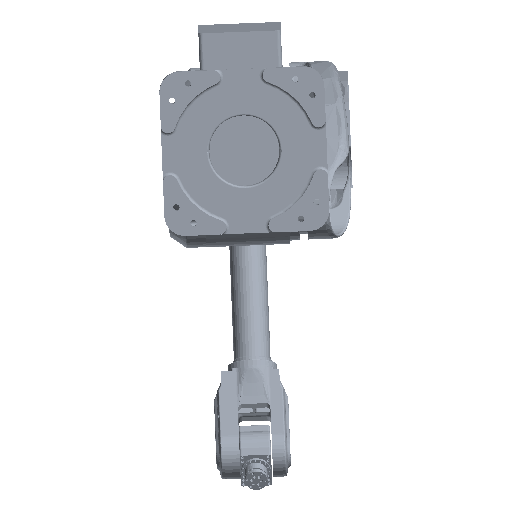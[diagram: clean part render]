
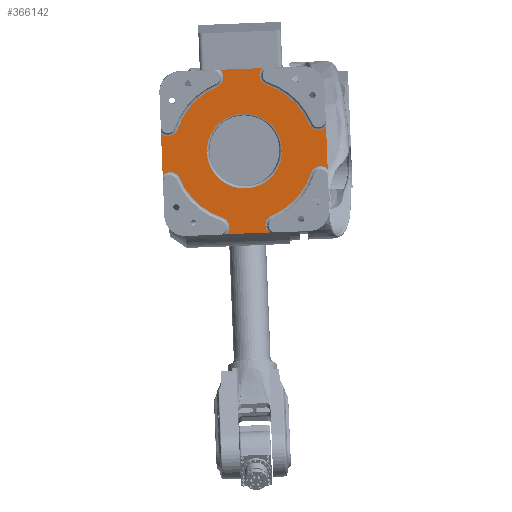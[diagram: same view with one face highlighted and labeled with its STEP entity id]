
A CAD part, left-side view. The second image highlights one B-rep face of the part: STEP entity #366142.
In plain terms, the highlighted planar face has unit normal (-0.996, -0.004, -0.088) as drawn and (-1, 0, 0) by its records, which use the part's own axes.
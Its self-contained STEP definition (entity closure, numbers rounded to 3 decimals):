
#357407=CARTESIAN_POINT('',(0.,0.,0.));
#357408=DIRECTION('',(-1.,0.,0.));
#357409=DIRECTION('',(0.,-0.936,0.352));
#357410=AXIS2_PLACEMENT_3D('',#357407,#357408,#357409);
#357412=CARTESIAN_POINT('',(0.,-182.5,68.693));
#357413=DIRECTION('',(1.,0.,0.));
#357414=DIRECTION('',(0.,-0.702,-0.712));
#357415=AXIS2_PLACEMENT_3D('',#357412,#357413,#357414);
#357417=DIRECTION('',(0.,0.,1.));
#357418=VECTOR('',#357417,101.914);
#357419=CARTESIAN_POINT('',(0.,-200.,-50.957));
#357420=LINE('',#357419,#357418);
#357421=CARTESIAN_POINT('',(0.,-182.5,-68.693));
#357422=DIRECTION('',(1.,0.,0.));
#357423=DIRECTION('',(0.,0.271,0.962));
#357424=AXIS2_PLACEMENT_3D('',#357421,#357422,#357423);
#357426=CARTESIAN_POINT('',(0.,-182.5,-68.693));
#357427=DIRECTION('',(1.,0.,0.));
#357428=DIRECTION('',(0.,0.936,0.352));
#357429=AXIS2_PLACEMENT_3D('',#357426,#357427,#357428);
#357431=CARTESIAN_POINT('',(0.,0.,0.));
#357432=DIRECTION('',(-1.,0.,0.));
#357433=DIRECTION('',(0.,-0.352,-0.936));
#357434=AXIS2_PLACEMENT_3D('',#357431,#357432,#357433);
#357436=CARTESIAN_POINT('',(0.,-68.693,-182.5));
#357437=DIRECTION('',(1.,0.,0.));
#357438=DIRECTION('',(0.,0.712,-0.702));
#357439=AXIS2_PLACEMENT_3D('',#357436,#357437,#357438);
#357441=DIRECTION('',(0.,-1.,0.));
#357442=VECTOR('',#357441,101.914);
#357443=CARTESIAN_POINT('',(0.,50.957,-200.));
#357444=LINE('',#357443,#357442);
#357445=CARTESIAN_POINT('',(0.,68.693,-182.5));
#357446=DIRECTION('',(1.,0.,0.));
#357447=DIRECTION('',(0.,-0.962,0.271));
#357448=AXIS2_PLACEMENT_3D('',#357445,#357446,#357447);
#357450=CARTESIAN_POINT('',(0.,68.693,-182.5));
#357451=DIRECTION('',(1.,0.,0.));
#357452=DIRECTION('',(0.,-0.352,0.936));
#357453=AXIS2_PLACEMENT_3D('',#357450,#357451,#357452);
#357455=CARTESIAN_POINT('',(0.,0.,0.));
#357456=DIRECTION('',(-1.,0.,0.));
#357457=DIRECTION('',(0.,0.936,-0.352));
#357458=AXIS2_PLACEMENT_3D('',#357455,#357456,#357457);
#357460=CARTESIAN_POINT('',(0.,182.5,-68.693));
#357461=DIRECTION('',(1.,0.,0.));
#357462=DIRECTION('',(0.,0.702,0.712));
#357463=AXIS2_PLACEMENT_3D('',#357460,#357461,#357462);
#357465=DIRECTION('',(0.,0.,-1.));
#357466=VECTOR('',#357465,101.914);
#357467=CARTESIAN_POINT('',(0.,200.,50.957));
#357468=LINE('',#357467,#357466);
#357469=CARTESIAN_POINT('',(0.,182.5,68.693));
#357470=DIRECTION('',(1.,0.,0.));
#357471=DIRECTION('',(0.,-0.271,-0.962));
#357472=AXIS2_PLACEMENT_3D('',#357469,#357470,#357471);
#357474=CARTESIAN_POINT('',(0.,182.5,68.693));
#357475=DIRECTION('',(1.,0.,0.));
#357476=DIRECTION('',(0.,-0.936,-0.352));
#357477=AXIS2_PLACEMENT_3D('',#357474,#357475,#357476);
#357479=CARTESIAN_POINT('',(0.,0.,0.));
#357480=DIRECTION('',(-1.,0.,0.));
#357481=DIRECTION('',(0.,0.352,0.936));
#357482=AXIS2_PLACEMENT_3D('',#357479,#357480,#357481);
#357484=CARTESIAN_POINT('',(0.,68.693,182.5));
#357485=DIRECTION('',(1.,0.,0.));
#357486=DIRECTION('',(0.,-0.712,0.702));
#357487=AXIS2_PLACEMENT_3D('',#357484,#357485,#357486);
#357489=DIRECTION('',(0.,1.,0.));
#357490=VECTOR('',#357489,101.914);
#357491=CARTESIAN_POINT('',(0.,-50.957,200.));
#357492=LINE('',#357491,#357490);
#357493=CARTESIAN_POINT('',(0.,-68.693,182.5));
#357494=DIRECTION('',(1.,0.,0.));
#357495=DIRECTION('',(0.,0.962,-0.271));
#357496=AXIS2_PLACEMENT_3D('',#357493,#357494,#357495);
#357498=CARTESIAN_POINT('',(0.,-68.693,182.5));
#357499=DIRECTION('',(1.,0.,0.));
#357500=DIRECTION('',(0.,0.352,-0.936));
#357501=AXIS2_PLACEMENT_3D('',#357498,#357499,#357500);
#357503=CARTESIAN_POINT('',(0.,0.,0.));
#357504=DIRECTION('',(1.,0.,0.));
#357505=DIRECTION('',(0.,1.,0.011));
#357506=AXIS2_PLACEMENT_3D('',#357503,#357504,#357505);
#357508=CARTESIAN_POINT('',(0.,0.,0.));
#357509=DIRECTION('',(1.,0.,0.));
#357510=DIRECTION('',(0.,1.,0.));
#357511=AXIS2_PLACEMENT_3D('',#357508,#357509,#357510);
#357513=CARTESIAN_POINT('',(0.,0.,0.));
#357514=DIRECTION('',(1.,0.,0.));
#357515=DIRECTION('',(0.,-1.,-0.011));
#357516=AXIS2_PLACEMENT_3D('',#357513,#357514,#357515);
#357518=CARTESIAN_POINT('',(0.,0.,0.));
#357519=DIRECTION('',(1.,0.,0.));
#357520=DIRECTION('',(0.,-1.,0.));
#357521=AXIS2_PLACEMENT_3D('',#357518,#357519,#357520);
#357623=CARTESIAN_POINT('',(0.,-50.957,-200.));
#358409=CARTESIAN_POINT('',(0.,50.957,-200.));
#359520=CARTESIAN_POINT('',(0.,-90.886,0.));
#359522=VERTEX_POINT('',#359520);
#359796=VERTEX_POINT('',#358409);
#359813=CARTESIAN_POINT('',(0.,50.957,200.));
#359814=CARTESIAN_POINT('',(0.,59.916,159.181));
#359815=VERTEX_POINT('',#359813);
#359816=VERTEX_POINT('',#359814);
#359959=CARTESIAN_POINT('',(0.,-59.916,159.181));
#359960=CARTESIAN_POINT('',(0.,-44.711,175.74));
#359961=VERTEX_POINT('',#359959);
#359962=VERTEX_POINT('',#359960);
#360015=CARTESIAN_POINT('',(0.,159.181,-59.916));
#360016=CARTESIAN_POINT('',(0.,59.916,-159.181));
#360017=VERTEX_POINT('',#360015);
#360018=VERTEX_POINT('',#360016);
#360053=CARTESIAN_POINT('',(0.,200.,50.957));
#360054=CARTESIAN_POINT('',(0.,200.,-50.957));
#360055=VERTEX_POINT('',#360053);
#360056=VERTEX_POINT('',#360054);
#360153=VERTEX_POINT('',#357623);
#360180=CARTESIAN_POINT('',(0.,-175.74,-44.711));
#360181=CARTESIAN_POINT('',(0.,-200.,-50.957));
#360182=VERTEX_POINT('',#360180);
#360183=VERTEX_POINT('',#360181);
#360192=CARTESIAN_POINT('',(0.,-159.181,-59.916));
#360193=VERTEX_POINT('',#360192);
#360253=CARTESIAN_POINT('',(0.,159.181,59.916));
#360254=CARTESIAN_POINT('',(0.,175.74,44.711));
#360255=VERTEX_POINT('',#360253);
#360256=VERTEX_POINT('',#360254);
#360298=CARTESIAN_POINT('',(0.,-90.88,-0.973));
#360299=VERTEX_POINT('',#360298);
#360300=CARTESIAN_POINT('',(0.,-200.,50.957));
#360301=VERTEX_POINT('',#360300);
#360312=CARTESIAN_POINT('',(0.,90.88,0.973));
#360313=VERTEX_POINT('',#360312);
#360350=CARTESIAN_POINT('',(0.,90.886,0.));
#360351=VERTEX_POINT('',#360350);
#360396=CARTESIAN_POINT('',(0.,-50.957,200.));
#360397=VERTEX_POINT('',#360396);
#360412=CARTESIAN_POINT('',(0.,-159.181,59.916));
#360413=VERTEX_POINT('',#360412);
#360430=CARTESIAN_POINT('',(0.,-59.916,-159.181));
#360431=VERTEX_POINT('',#360430);
#360512=CARTESIAN_POINT('',(0.,44.711,-175.74));
#360513=VERTEX_POINT('',#360512);
#366089=CARTESIAN_POINT('',(0.,0.,0.));
#366090=DIRECTION('',(1.,0.,0.));
#366091=DIRECTION('',(0.,1.,0.));
#366092=AXIS2_PLACEMENT_3D('',#366089,#366090,#366091);
#366093=PLANE('',#366092);
#366095=ORIENTED_EDGE('',*,*,#366094,.F.);
#366097=ORIENTED_EDGE('',*,*,#366096,.F.);
#366099=ORIENTED_EDGE('',*,*,#366098,.F.);
#366101=ORIENTED_EDGE('',*,*,#366100,.F.);
#366103=ORIENTED_EDGE('',*,*,#366102,.F.);
#366105=ORIENTED_EDGE('',*,*,#366104,.F.);
#366107=ORIENTED_EDGE('',*,*,#366106,.F.);
#366109=ORIENTED_EDGE('',*,*,#366108,.F.);
#366111=ORIENTED_EDGE('',*,*,#366110,.F.);
#366113=ORIENTED_EDGE('',*,*,#366112,.F.);
#366115=ORIENTED_EDGE('',*,*,#366114,.F.);
#366117=ORIENTED_EDGE('',*,*,#366116,.F.);
#366119=ORIENTED_EDGE('',*,*,#366118,.F.);
#366121=ORIENTED_EDGE('',*,*,#366120,.F.);
#366123=ORIENTED_EDGE('',*,*,#366122,.F.);
#366125=ORIENTED_EDGE('',*,*,#366124,.F.);
#366127=ORIENTED_EDGE('',*,*,#366126,.F.);
#366129=ORIENTED_EDGE('',*,*,#366128,.F.);
#366131=ORIENTED_EDGE('',*,*,#366130,.F.);
#366133=ORIENTED_EDGE('',*,*,#366132,.F.);
#366134=EDGE_LOOP('',(#366095,#366097,#366099,#366101,#366103,#366105,#366107,
#366109,#366111,#366113,#366115,#366117,#366119,#366121,#366123,#366125,#366127,
#366129,#366131,#366133));
#366135=FACE_OUTER_BOUND('',#366134,.F.);
#366136=ORIENTED_EDGE('',*,*,#366044,.F.);
#366137=ORIENTED_EDGE('',*,*,#366042,.F.);
#366138=ORIENTED_EDGE('',*,*,#366063,.F.);
#366139=ORIENTED_EDGE('',*,*,#366061,.F.);
#366140=EDGE_LOOP('',(#366136,#366137,#366138,#366139));
#366141=FACE_BOUND('',#366140,.F.);
#357411=CIRCLE('',#357410,170.084);
#357416=CIRCLE('',#357415,24.916);
#357425=CIRCLE('',#357424,24.916);
#357430=CIRCLE('',#357429,24.916);
#357435=CIRCLE('',#357434,170.084);
#357440=CIRCLE('',#357439,24.916);
#357449=CIRCLE('',#357448,24.916);
#357454=CIRCLE('',#357453,24.916);
#357459=CIRCLE('',#357458,170.084);
#357464=CIRCLE('',#357463,24.916);
#357473=CIRCLE('',#357472,24.916);
#357478=CIRCLE('',#357477,24.916);
#357483=CIRCLE('',#357482,170.084);
#357488=CIRCLE('',#357487,24.916);
#357497=CIRCLE('',#357496,24.916);
#357502=CIRCLE('',#357501,24.916);
#357507=CIRCLE('',#357506,90.886);
#357512=CIRCLE('',#357511,90.886);
#357517=CIRCLE('',#357516,90.886);
#357522=CIRCLE('',#357521,90.886);
#366042=EDGE_CURVE('',#360351,#360313,#357512,.T.);
#366044=EDGE_CURVE('',#360313,#359522,#357507,.T.);
#366061=EDGE_CURVE('',#359522,#360299,#357522,.T.);
#366063=EDGE_CURVE('',#360299,#360351,#357517,.T.);
#366094=EDGE_CURVE('',#360413,#359961,#357411,.T.);
#366096=EDGE_CURVE('',#360301,#360413,#357416,.T.);
#366098=EDGE_CURVE('',#360183,#360301,#357420,.T.);
#366100=EDGE_CURVE('',#360182,#360183,#357425,.T.);
#366102=EDGE_CURVE('',#360193,#360182,#357430,.T.);
#366104=EDGE_CURVE('',#360431,#360193,#357435,.T.);
#366106=EDGE_CURVE('',#360153,#360431,#357440,.T.);
#366108=EDGE_CURVE('',#359796,#360153,#357444,.T.);
#366110=EDGE_CURVE('',#360513,#359796,#357449,.T.);
#366112=EDGE_CURVE('',#360018,#360513,#357454,.T.);
#366114=EDGE_CURVE('',#360017,#360018,#357459,.T.);
#366116=EDGE_CURVE('',#360056,#360017,#357464,.T.);
#366118=EDGE_CURVE('',#360055,#360056,#357468,.T.);
#366120=EDGE_CURVE('',#360256,#360055,#357473,.T.);
#366122=EDGE_CURVE('',#360255,#360256,#357478,.T.);
#366124=EDGE_CURVE('',#359816,#360255,#357483,.T.);
#366126=EDGE_CURVE('',#359815,#359816,#357488,.T.);
#366128=EDGE_CURVE('',#360397,#359815,#357492,.T.);
#366130=EDGE_CURVE('',#359962,#360397,#357497,.T.);
#366132=EDGE_CURVE('',#359961,#359962,#357502,.T.);
#366142=ADVANCED_FACE('',(#366135,#366141),#366093,.F.);
